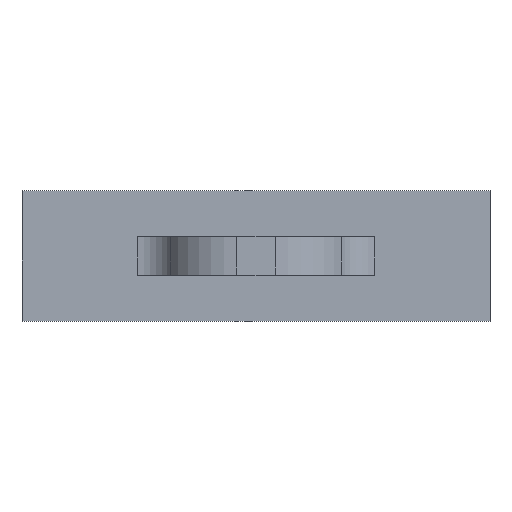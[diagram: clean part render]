
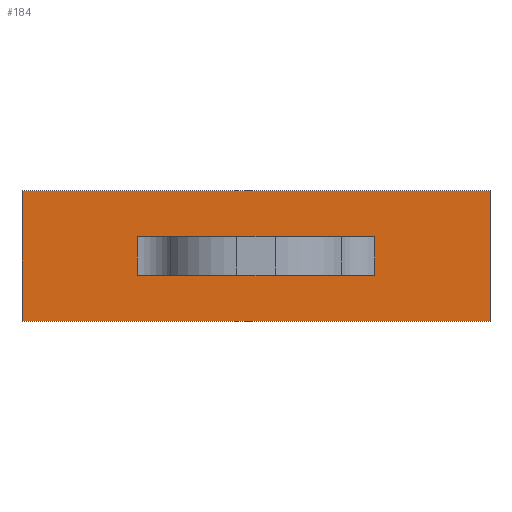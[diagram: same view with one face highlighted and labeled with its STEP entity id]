
A CAD part, top view. The second image highlights one B-rep face of the part: STEP entity #184.
In plain terms, the highlighted planar face has unit normal (0, 0, 1).
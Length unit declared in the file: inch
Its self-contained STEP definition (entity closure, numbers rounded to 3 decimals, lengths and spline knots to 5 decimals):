
#24=CARTESIAN_POINT('',(-0.17524,2.0125,0.));
#25=VERTEX_POINT('',#24);
#34=CARTESIAN_POINT('',(-1.69976,2.0125,0.));
#35=VERTEX_POINT('',#34);
#36=CARTESIAN_POINT('',(-5.69392,2.0125,0.));
#37=DIRECTION('',(1.,0.,0.));
#38=VECTOR('',#37,1.);
#39=LINE('',#36,#38);
#40=EDGE_CURVE('',#35,#25,#39,.T.);
#65=CARTESIAN_POINT('',(-1.69976,2.4375,0.));
#66=VERTEX_POINT('',#65);
#67=CARTESIAN_POINT('',(-1.69976,8.0696,0.));
#68=DIRECTION('',(0.,-1.,0.));
#69=VECTOR('',#68,1.);
#70=LINE('',#67,#69);
#71=EDGE_CURVE('',#66,#35,#70,.T.);
#95=ORIENTED_EDGE('',*,*,#40,.T.);
#96=CARTESIAN_POINT('',(-0.17524,2.4375,0.));
#97=VERTEX_POINT('',#96);
#98=CARTESIAN_POINT('',(-0.17524,-5.41166,0.));
#99=DIRECTION('',(0.,1.,0.));
#100=VECTOR('',#99,1.);
#101=LINE('',#98,#100);
#102=EDGE_CURVE('',#25,#97,#101,.T.);
#103=ORIENTED_EDGE('',*,*,#102,.T.);
#104=CARTESIAN_POINT('',(-2.4566,2.4375,0.));
#105=DIRECTION('',(-1.,0.,0.));
#106=VECTOR('',#105,39.37008);
#107=LINE('',#104,#106);
#108=EDGE_CURVE('',#97,#66,#107,.T.);
#109=ORIENTED_EDGE('',*,*,#108,.T.);
#110=ORIENTED_EDGE('',*,*,#71,.T.);
#111=EDGE_LOOP('',(#95,#103,#109,#110));
#112=FACE_OUTER_BOUND('',#111,.T.);
#113=CARTESIAN_POINT('',(-1.18545,2.1625,0.));
#114=VERTEX_POINT('',#113);
#115=CARTESIAN_POINT('',(-1.32476,2.1625,0.));
#116=VERTEX_POINT('',#115);
#117=CARTESIAN_POINT('',(0.,2.1625,0.));
#118=DIRECTION('',(-1.,0.,0.));
#119=VECTOR('',#118,39.37008);
#120=LINE('',#117,#119);
#121=EDGE_CURVE('',#114,#116,#120,.T.);
#122=ORIENTED_EDGE('',*,*,#121,.T.);
#123=CARTESIAN_POINT('',(-1.32476,2.2875,0.));
#124=VERTEX_POINT('',#123);
#125=CARTESIAN_POINT('',(-1.32476,2.1625,0.));
#126=DIRECTION('',(0.,-1.,0.));
#127=VECTOR('',#126,39.37008);
#128=LINE('',#125,#127);
#129=EDGE_CURVE('',#124,#116,#128,.T.);
#130=ORIENTED_EDGE('',*,*,#129,.F.);
#131=CARTESIAN_POINT('',(-1.18545,2.2875,0.));
#132=VERTEX_POINT('',#131);
#133=CARTESIAN_POINT('',(0.,2.2875,0.));
#134=DIRECTION('',(1.,0.,0.));
#135=VECTOR('',#134,39.37008);
#136=LINE('',#133,#135);
#137=EDGE_CURVE('',#124,#132,#136,.T.);
#138=ORIENTED_EDGE('',*,*,#137,.T.);
#139=CARTESIAN_POINT('',(-0.68955,2.2875,0.));
#140=VERTEX_POINT('',#139);
#141=CARTESIAN_POINT('',(0.,2.2875,0.));
#142=DIRECTION('',(-1.,0.,0.));
#143=VECTOR('',#142,39.37008);
#144=LINE('',#141,#143);
#145=EDGE_CURVE('',#140,#132,#144,.T.);
#146=ORIENTED_EDGE('',*,*,#145,.F.);
#147=CARTESIAN_POINT('',(-0.55024,2.2875,0.));
#148=VERTEX_POINT('',#147);
#149=CARTESIAN_POINT('',(0.,2.2875,0.));
#150=DIRECTION('',(1.,0.,0.));
#151=VECTOR('',#150,39.37008);
#152=LINE('',#149,#151);
#153=EDGE_CURVE('',#140,#148,#152,.T.);
#154=ORIENTED_EDGE('',*,*,#153,.T.);
#155=CARTESIAN_POINT('',(-0.55024,2.1625,0.));
#156=VERTEX_POINT('',#155);
#157=CARTESIAN_POINT('',(-0.55024,2.1625,0.));
#158=DIRECTION('',(0.,1.,0.));
#159=VECTOR('',#158,39.37008);
#160=LINE('',#157,#159);
#161=EDGE_CURVE('',#156,#148,#160,.T.);
#162=ORIENTED_EDGE('',*,*,#161,.F.);
#163=CARTESIAN_POINT('',(-0.68955,2.1625,0.));
#164=VERTEX_POINT('',#163);
#165=CARTESIAN_POINT('',(0.,2.1625,0.));
#166=DIRECTION('',(-1.,0.,0.));
#167=VECTOR('',#166,39.37008);
#168=LINE('',#165,#167);
#169=EDGE_CURVE('',#156,#164,#168,.T.);
#170=ORIENTED_EDGE('',*,*,#169,.T.);
#171=CARTESIAN_POINT('',(0.,2.1625,0.));
#172=DIRECTION('',(-1.,0.,0.));
#173=VECTOR('',#172,39.37008);
#174=LINE('',#171,#173);
#175=EDGE_CURVE('',#164,#114,#174,.T.);
#176=ORIENTED_EDGE('',*,*,#175,.T.);
#177=EDGE_LOOP('',(#122,#130,#138,#146,#154,#162,#170,#176));
#178=FACE_BOUND('',#177,.T.);
#179=CARTESIAN_POINT('',(0.,0.,0.));
#180=DIRECTION('',(0.,0.,1.));
#181=DIRECTION('',(1.,0.,0.));
#182=AXIS2_PLACEMENT_3D('',#179,#180,#181);
#183=PLANE('',#182);
#184=ADVANCED_FACE('',(#112,#178),#183,.T.);
